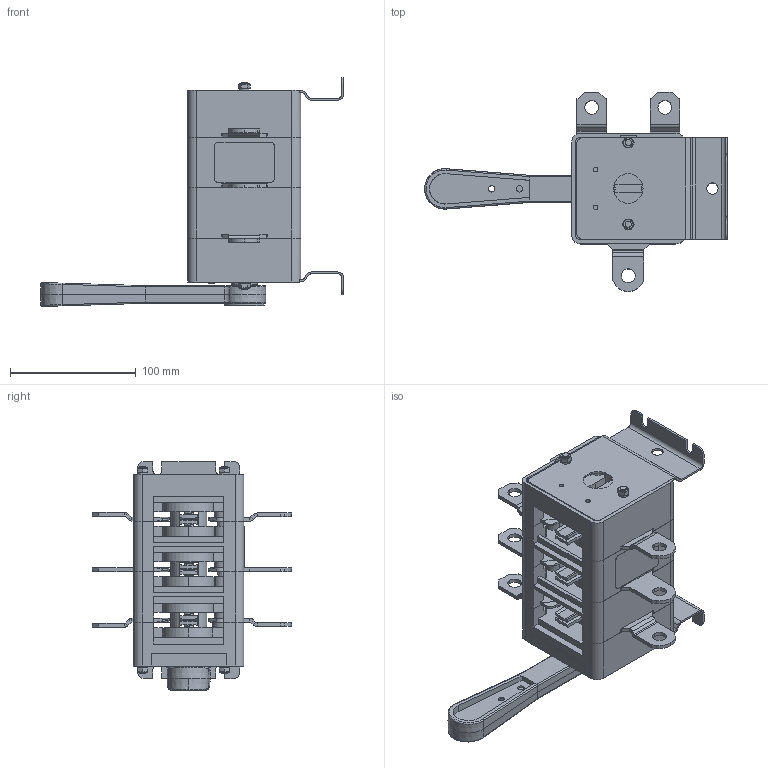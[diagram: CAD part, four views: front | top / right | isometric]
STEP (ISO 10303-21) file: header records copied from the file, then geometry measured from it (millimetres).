
FILE_DESCRIPTION (( 'STEP AP214' ), '1' );
FILE_NAME ('ﾂﾐ32-35ﾔ ﾃﾆﾈﾊ.642523.010-05 (ﾀ70220-250ﾀ).STEP', '2023-04-18T12:49:45', ( '' ), ( '' ), 'SwSTEP 2.0', 'SolidWorks 2018', '' );
FILE_SCHEMA (( 'AUTOMOTIVE_DESIGN' ));
Length unit declared in the file: millimetre
Products named in the file (31): Ãàéêà Ì5-6Í.5.016; Ïëàñòèíà_ÃÆÈÊ.301714.003ÑÁ_2 ­ ¯à ¢«¥­¨ï; Âûâîä ÃÆÈÊ.745485.013_‚ë¢®¤_ƒ†ˆŠ.745485.013; Áîêîâèíà ëåâàÿ ÃÆÈÊ.735224.031; ﾂﾐ32-35ﾔ ﾃﾆﾈﾊ.642523.010-05 (ﾀ70220-250ﾀ); Òàáëè÷êà äëÿ ñáîðêè ÷èñòàÿ áîëüøàÿ; ﾘ琺矜 5 65ﾃ 016; Âûâîä ÃÆÈÊ.745485.013_‚ë¢®¤_ƒ†ˆŠ.745485.013-02; 砑僔蠂縺_009; Áîêîâèíà ïðàâàÿ ÃÆÈÊ.735224.031; 想囫蜩磬_闷仁.745355.029; Êîðïóñ ëåâûé ÃÆÈÊ.735384.059; Îáîëî÷êà 100-400À_2 ­ ¯à ¢«¥­¨ï; 青汶篪赅 闷仁.735211.002; Òàáëè÷êà äëÿ ñáîðêè ÷èñòàÿ; Îñü; ﾏ跖浯 ﾃﾆﾈﾊ.753553.016; 澡犟囹铕 闷仁.745484.003; Êîðïóñ ñðåäíèé ÃÆÈÊ.735384.057; 暑痫篑 镳噔 闷仁.735384.055; Âûâîä ÃÆÈÊ.745485.013_‚ë¢®¤_ƒ†ˆŠ.745485.013-01; ﾂ鏆鮏 ﾃﾆﾈﾊ.745485.015; Ïëàñòèíà_ÃÆÈÊ.745355.027_2 ­ ¯à ¢«¥­¨ï; Êîíòàêò ïîäâèæíûé ÃÆÈÊ.685179.158; ﾂ鏆鮏 ﾃﾆﾈﾊ.745485.015_1; Ðóêîÿòêà ÃÆÈÊ.303658.015_2 ­ ¯à ¢«¥­¨ï; 婰膲僗闉_005; Øïèëüêà Ì5 ÃÆÈÊ.758292.004; ﾂ琿 ﾃﾆﾈﾊ.715274.006; Ïðóæèíà_250À_-01(¤«ï á¡®àª¨); Êîíòàêò ïîäâèæíûé_ÃÆÈÊ.745355.024
Assembly tree (52 placements, depth 4):
  ﾂﾐ32-35ﾔ ﾃﾆﾈﾊ.642523.010-05 (ﾀ70220-250ﾀ)
    暑痫篑 镳噔 闷仁.735384.055
    Êîðïóñ ñðåäíèé ÃÆÈÊ.735384.057  x2
    Êîðïóñ ëåâûé ÃÆÈÊ.735384.059
    ﾂ琿 ﾃﾆﾈﾊ.715274.006
    Áîêîâèíà ïðàâàÿ ÃÆÈÊ.735224.031
    Áîêîâèíà ëåâàÿ ÃÆÈÊ.735224.031
    ﾂ鏆鮏 ﾃﾆﾈﾊ.745485.015_1  x2
    ﾂ鏆鮏 ﾃﾆﾈﾊ.745485.015
    Âûâîä ÃÆÈÊ.745485.013_‚ë¢®¤_ƒ†ˆŠ.745485.013-02  x2
    Âûâîä ÃÆÈÊ.745485.013_‚ë¢®¤_ƒ†ˆŠ.745485.013-01  x2
    Âûâîä ÃÆÈÊ.745485.013_‚ë¢®¤_ƒ†ˆŠ.745485.013  x2
    Øïèëüêà Ì5 ÃÆÈÊ.758292.004  x2
    Êîíòàêò ïîäâèæíûé ÃÆÈÊ.685179.158  x3
      Êîíòàêò ïîäâèæíûé_ÃÆÈÊ.745355.024
      砑僔蠂縺_009
      Îñü
      Ïðóæèíà_250À_-01(¤«ï á¡®àª¨)
      婰膲僗闉_005
    ﾏ跖浯 ﾃﾆﾈﾊ.753553.016  x2
    澡犟囹铕 闷仁.745484.003  x2
    Òàáëè÷êà äëÿ ñáîðêè ÷èñòàÿ
    Òàáëè÷êà äëÿ ñáîðêè ÷èñòàÿ áîëüøàÿ
    Ãàéêà Ì5-6Í.5.016  x4
    ﾘ琺矜 5 65ﾃ 016  x4
    青汶篪赅 闷仁.735211.002
    Ðóêîÿòêà ÃÆÈÊ.303658.015_2 ­ ¯à ¢«¥­¨ï
      Îáîëî÷êà 100-400À_2 ­ ¯à ¢«¥­¨ï
      Ïëàñòèíà_ÃÆÈÊ.301714.003ÑÁ_2 ­ ¯à ¢«¥­¨ï
        Ïëàñòèíà_ÃÆÈÊ.745355.027_2 ­ ¯à ¢«¥­¨ï
        想囫蜩磬_闷仁.745355.029
Bounding box: 241.29 x 158.59 x 182.38 mm (x, y, z)
Volume: 589163.1 mm3; surface area: 368587.3 mm2
Topology: 69 solids, 69 shells, 2645 faces, 6541 edges, 4119 vertices
Faces by surface type: plane 1607, cylinder 837, cone 92, bspline 86, torus 23
Entity records: 54735 total; most frequent: CARTESIAN_POINT 13859, DIRECTION 7436, ORIENTED_EDGE 7120, EDGE_CURVE 3560, AXIS2_PLACEMENT_3D 2537, VECTOR 2362, LINE 2362, VERTEX_POINT 2281
